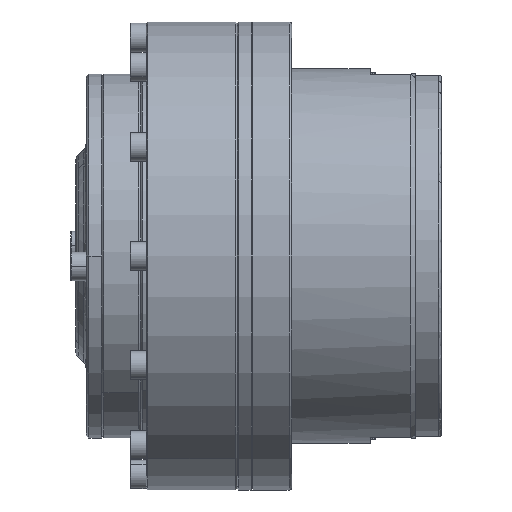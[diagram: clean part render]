
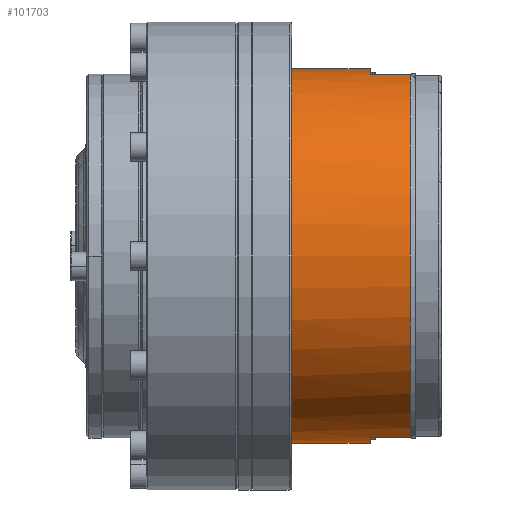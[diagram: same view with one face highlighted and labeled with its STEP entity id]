
A CAD part, left-side view. The second image highlights one B-rep face of the part: STEP entity #101703.
In plain terms, the highlighted cylindrical face has radius 36 mm (diameter 72 mm), a partial arc.
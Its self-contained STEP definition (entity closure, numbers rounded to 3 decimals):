
#2599 = LINE ( 'NONE', #12088, #90541 ) ;
#5794 = CARTESIAN_POINT ( 'NONE',  ( -8.743, 19., 34.922 ) ) ;
#6050 = CARTESIAN_POINT ( 'NONE',  ( 0., 19., 0. ) ) ;
#6214 = CARTESIAN_POINT ( 'NONE',  ( 0., 8.7, 36. ) ) ;
#8871 = VECTOR ( 'NONE', #49568, 1000. ) ;
#10681 = ORIENTED_EDGE ( 'NONE', *, *, #99905, .T. ) ;
#11152 = ORIENTED_EDGE ( 'NONE', *, *, #137342, .T. ) ;
#12088 = CARTESIAN_POINT ( 'NONE',  ( -8.743, 19., -34.922 ) ) ;
#13048 = CARTESIAN_POINT ( 'NONE',  ( -7.03, 8.7, -35.351 ) ) ;
#13812 = CYLINDRICAL_SURFACE ( 'NONE', #61047, 36. ) ;
#14133 = VERTEX_POINT ( 'NONE', #125045 ) ;
#19175 = VERTEX_POINT ( 'NONE', #111515 ) ;
#26752 = VECTOR ( 'NONE', #130786, 1000. ) ;
#28643 = EDGE_CURVE ( 'NONE', #47408, #14133, #100048, .T. ) ;
#29370 = AXIS2_PLACEMENT_3D ( 'NONE', #112116, #122904, #133331 ) ;
#33937 = CARTESIAN_POINT ( 'NONE',  ( 0., 23.8, 0. ) ) ;
#35449 = VERTEX_POINT ( 'NONE', #91300 ) ;
#39330 = ORIENTED_EDGE ( 'NONE', *, *, #122139, .F. ) ;
#42722 = CIRCLE ( 'NONE', #52571, 36. ) ;
#44671 = CARTESIAN_POINT ( 'NONE',  ( -8.743, 1., -34.922 ) ) ;
#47408 = VERTEX_POINT ( 'NONE', #49706 ) ;
#49568 = DIRECTION ( 'NONE',  ( 0., 1., 0. ) ) ;
#49657 = VERTEX_POINT ( 'NONE', #44671 ) ;
#49678 = CARTESIAN_POINT ( 'NONE',  ( -3.532, 8.7, 35.892 ) ) ;
#49706 = CARTESIAN_POINT ( 'NONE',  ( -8.743, 1., 34.922 ) ) ;
#50656 = ORIENTED_EDGE ( 'NONE', *, *, #28643, .T. ) ;
#51979 = DIRECTION ( 'NONE',  ( 0., -1., 0. ) ) ;
#52571 = AXIS2_PLACEMENT_3D ( 'NONE', #33937, #88658, #109336 ) ;
#52590 = ORIENTED_EDGE ( 'NONE', *, *, #76123, .T. ) ;
#54525 = CARTESIAN_POINT ( 'NONE',  ( -1.766, 8.7, -36. ) ) ;
#55431 = CARTESIAN_POINT ( 'NONE',  ( -8.743, 8.7, -34.922 ) ) ;
#55893 = CARTESIAN_POINT ( 'NONE',  ( -5.29, 8.7, -35.675 ) ) ;
#61047 = AXIS2_PLACEMENT_3D ( 'NONE', #6050, #113594, #114526 ) ;
#62398 = CARTESIAN_POINT ( 'NONE',  ( 0., 19., 36. ) ) ;
#63634 = ORIENTED_EDGE ( 'NONE', *, *, #133149, .F. ) ;
#64658 = B_SPLINE_CURVE_WITH_KNOTS ( 'NONE', 5,
 ( #6214, #125956, #49678, #77019, #126700, #103036 ),
 .UNSPECIFIED., .F., .F.,
 ( 6, 6 ),
 ( 0., 12.489 ),
 .UNSPECIFIED. ) ;
#65374 = EDGE_CURVE ( 'NONE', #19175, #109950, #138141, .T. ) ;
#66746 = CARTESIAN_POINT ( 'NONE',  ( 0., 8.7, -36. ) ) ;
#67637 = CARTESIAN_POINT ( 'NONE',  ( 0., 8.7, -36. ) ) ;
#76123 = EDGE_CURVE ( 'NONE', #35449, #49657, #2599, .T. ) ;
#77019 = CARTESIAN_POINT ( 'NONE',  ( -5.29, 8.7, 35.675 ) ) ;
#78266 = EDGE_LOOP ( 'NONE', ( #125199, #11152, #10681, #39330, #52590, #122351, #50656, #63634 ) ) ;
#88658 = DIRECTION ( 'NONE',  ( 0., -1., 0. ) ) ;
#89185 = LINE ( 'NONE', #119019, #26752 ) ;
#90541 = VECTOR ( 'NONE', #110113, 1000. ) ;
#91300 = CARTESIAN_POINT ( 'NONE',  ( -8.743, 8.7, -34.922 ) ) ;
#99905 = EDGE_CURVE ( 'NONE', #136006, #116559, #89185, .T. ) ;
#100048 = LINE ( 'NONE', #5794, #8871 ) ;
#101703 = ADVANCED_FACE ( 'NONE', ( #113371 ), #13812, .T. ) ;
#102823 = VECTOR ( 'NONE', #51979, 1000. ) ;
#103036 = CARTESIAN_POINT ( 'NONE',  ( -8.743, 8.7, 34.922 ) ) ;
#109336 = DIRECTION ( 'NONE',  ( 1., 0., 0. ) ) ;
#109950 = VERTEX_POINT ( 'NONE', #132405 ) ;
#110113 = DIRECTION ( 'NONE',  ( 0., -1., 0. ) ) ;
#111104 = EDGE_CURVE ( 'NONE', #49657, #47408, #132632, .T. ) ;
#111515 = CARTESIAN_POINT ( 'NONE',  ( 0., 23.8, 36. ) ) ;
#112116 = CARTESIAN_POINT ( 'NONE',  ( 0., 1., 0. ) ) ;
#113371 = FACE_OUTER_BOUND ( 'NONE', #78266, .T. ) ;
#113594 = DIRECTION ( 'NONE',  ( 0., -1., 0. ) ) ;
#114526 = DIRECTION ( 'NONE',  ( 0., 0., -1. ) ) ;
#116559 = VERTEX_POINT ( 'NONE', #67637 ) ;
#119019 = CARTESIAN_POINT ( 'NONE',  ( 0., 19., -36. ) ) ;
#121934 = CARTESIAN_POINT ( 'NONE',  ( 0., 23.8, -36. ) ) ;
#122139 = EDGE_CURVE ( 'NONE', #35449, #116559, #130287, .T. ) ;
#122351 = ORIENTED_EDGE ( 'NONE', *, *, #111104, .T. ) ;
#122904 = DIRECTION ( 'NONE',  ( 0., 1., 0. ) ) ;
#125045 = CARTESIAN_POINT ( 'NONE',  ( -8.743, 8.7, 34.922 ) ) ;
#125199 = ORIENTED_EDGE ( 'NONE', *, *, #65374, .F. ) ;
#125956 = CARTESIAN_POINT ( 'NONE',  ( -1.766, 8.7, 36. ) ) ;
#126700 = CARTESIAN_POINT ( 'NONE',  ( -7.03, 8.7, 35.351 ) ) ;
#130287 = B_SPLINE_CURVE_WITH_KNOTS ( 'NONE', 5,
 ( #55431, #13048, #55893, #131334, #54525, #66746 ),
 .UNSPECIFIED., .F., .F.,
 ( 6, 6 ),
 ( 0., 12.489 ),
 .UNSPECIFIED. ) ;
#130786 = DIRECTION ( 'NONE',  ( 0., -1., 0. ) ) ;
#131334 = CARTESIAN_POINT ( 'NONE',  ( -3.532, 8.7, -35.892 ) ) ;
#132405 = CARTESIAN_POINT ( 'NONE',  ( 0., 8.7, 36. ) ) ;
#132632 = CIRCLE ( 'NONE', #29370, 36. ) ;
#133149 = EDGE_CURVE ( 'NONE', #109950, #14133, #64658, .T. ) ;
#133331 = DIRECTION ( 'NONE',  ( 1., 0., 0. ) ) ;
#136006 = VERTEX_POINT ( 'NONE', #121934 ) ;
#137342 = EDGE_CURVE ( 'NONE', #19175, #136006, #42722, .T. ) ;
#138141 = LINE ( 'NONE', #62398, #102823 ) ;
